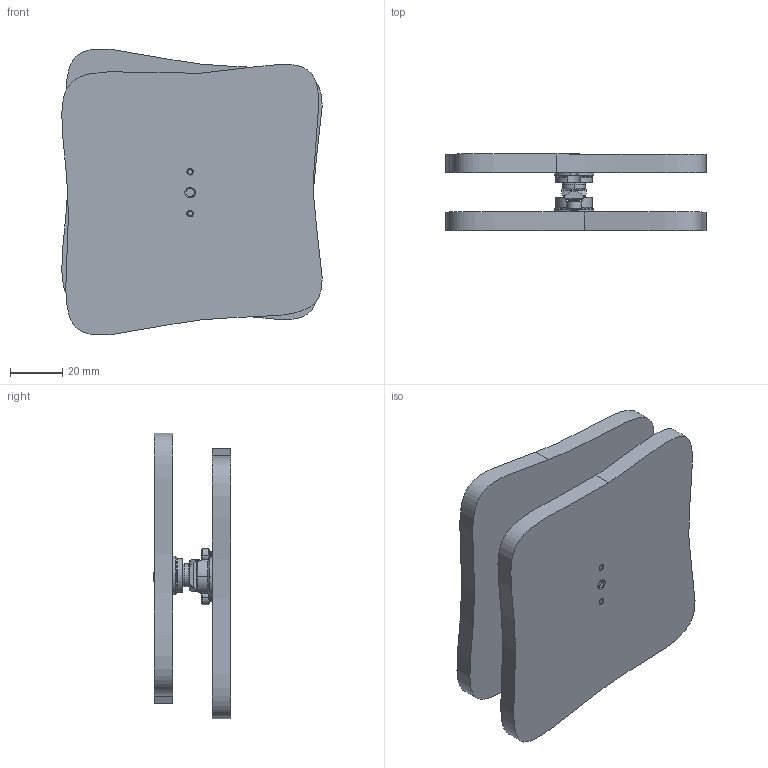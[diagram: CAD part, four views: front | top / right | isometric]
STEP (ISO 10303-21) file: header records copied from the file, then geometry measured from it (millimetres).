
FILE_DESCRIPTION (( 'STEP AP214' ), '1' );
FILE_NAME ('SPH10-aLGC Legacy Stack.STEP', '2025-02-25T06:17:57', ( '' ), ( '' ), 'SwSTEP 2.0', 'SolidWorks 2022', '' );
FILE_SCHEMA (( 'AUTOMOTIVE_DESIGN' ));
Length unit declared in the file: millimetre
Products named in the file (13): SPH10-_hSHM3 MCM_91292A112 M3x8.0 TYPE 18-8 SS SOCKET HEAD CAP SCREW_91292A112; SPH10-PGm Metric Generic Baseplate_Legacy C; SPH10-aLGC Legacy Stack; SPH10-RL Legacy Retainer_Full; SPH10-_hNM4 Retainer Nut MCM_94150A335 M4x0.7 SS316 Stainless Steel Hex Nut_94150A335; SPH10-_hRA2 Retainer Adapter_89935K613; SPH10-BC Cone Block_Grinding; SPH10-GEOMETRY; SPH10-_hWB MCM_9713K15 .22x.437x.023x.034 Corrosion-Resistant Belleville Disc Spring_9713K15; SPH10-SP Spherolinder_Grinding ; SPH10-PGm Metric Generic Baseplate_Legacy Vee; SPH10-BV Vee Block_grinding; SPH10-_hPC Slotted Spring Pin MCM_91610A200 M2x4.0 18-8 STAINLESS STEEL SLOTTED SPRING PIN_Closed
Assembly tree (16 placements, depth 2):
  SPH10-aLGC Legacy Stack
    SPH10-BV Vee Block_grinding
    SPH10-SP Spherolinder_Grinding 
    SPH10-BC Cone Block_Grinding
    SPH10-RL Legacy Retainer_Full
    SPH10-_hSHM3 MCM_91292A112 M3x8.0 TYPE 18-8 SS SOCKET HEAD CAP SCREW_91292A112  x2
    SPH10-_hPC Slotted Spring Pin MCM_91610A200 M2x4.0 18-8 STAINLESS STEEL SLOTTED SPRING PIN_Closed  x4
    SPH10-PGm Metric Generic Baseplate_Legacy Vee
    SPH10-PGm Metric Generic Baseplate_Legacy C
    SPH10-_hWB MCM_9713K15 .22x.437x.023x.034 Corrosion-Resistant Belleville Disc Spring_9713K15  x2
    SPH10-_hRA2 Retainer Adapter_89935K613
    SPH10-_hNM4 Retainer Nut MCM_94150A335 M4x0.7 SS316 Stainless Steel Hex Nut_94150A335
  SPH10-GEOMETRY
Bounding box: 99.76 x 29.55 x 109.48 mm (x, y, z)
Volume: 130887.2 mm3; surface area: 46029.8 mm2
Topology: 16 solids, 16 shells, 612 faces, 1542 edges, 974 vertices
Faces by surface type: cylinder 290, cone 151, plane 98, torus 34, bspline 27, sphere 12
Entity records: 18439 total; most frequent: CARTESIAN_POINT 6684, ORIENTED_EDGE 2386, DIRECTION 2219, EDGE_CURVE 1193, AXIS2_PLACEMENT_3D 935, VERTEX_POINT 752, EDGE_LOOP 523, ADVANCED_FACE 475
